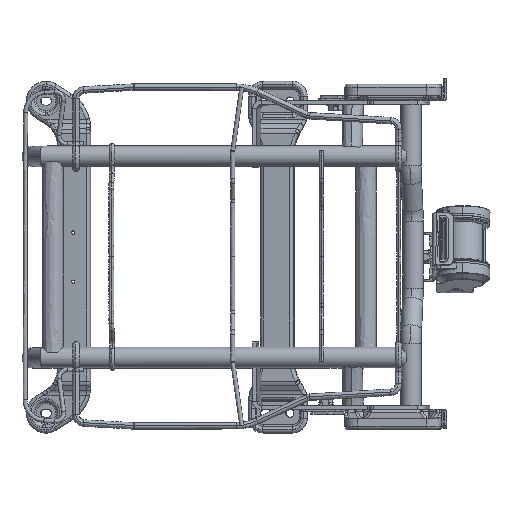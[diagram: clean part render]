
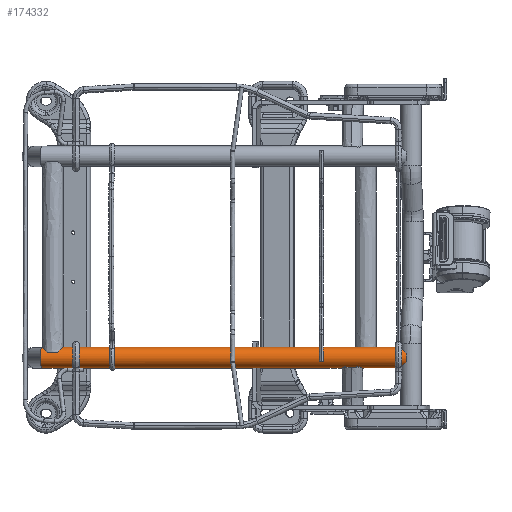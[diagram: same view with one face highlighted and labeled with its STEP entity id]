
A CAD part, top view. The second image highlights one B-rep face of the part: STEP entity #174332.
In plain terms, the highlighted cylindrical face has radius 12.5 mm (diameter 25 mm), a partial arc.
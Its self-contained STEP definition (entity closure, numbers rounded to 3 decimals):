
#174130=AXIS2_PLACEMENT_3D('Circle Axis2P3D',#174128,#174129,$) ;
#174226=AXIS2_PLACEMENT_3D('Circle Axis2P3D',#174224,#174225,$) ;
#174286=AXIS2_PLACEMENT_3D('Cylinder Axis2P3D',#174283,#174284,#174285) ;
#174042=CARTESIAN_POINT('Control Point',(-72.024,595.009,502.14)) ;
#174043=CARTESIAN_POINT('Control Point',(-72.023,595.007,502.064)) ;
#174044=CARTESIAN_POINT('Control Point',(-72.021,595.005,501.987)) ;
#174045=CARTESIAN_POINT('Control Point',(-72.018,595.004,501.911)) ;
#174046=CARTESIAN_POINT('Control Point',(-72.015,595.003,501.834)) ;
#174047=CARTESIAN_POINT('Control Point',(-72.012,595.003,501.758)) ;
#174048=CARTESIAN_POINT('Vertex',(-72.024,595.009,502.14)) ;
#174050=CARTESIAN_POINT('Vertex',(-72.012,595.003,501.758)) ;
#174125=CARTESIAN_POINT('Vertex',(-509.468,595.005,481.391)) ;
#174128=CARTESIAN_POINT('Axis2P3D Location',(-509.468,607.505,481.391)) ;
#174132=CARTESIAN_POINT('Vertex',(-509.467,620.005,481.391)) ;
#174214=CARTESIAN_POINT('Vertex',(-65.473,602.074,513.334)) ;
#174221=CARTESIAN_POINT('Vertex',(-65.473,612.933,513.334)) ;
#174224=CARTESIAN_POINT('Axis2P3D Location',(-64.949,607.503,502.087)) ;
#174263=CARTESIAN_POINT('Control Point',(-65.473,602.074,513.334)) ;
#174264=CARTESIAN_POINT('Control Point',(-66.292,601.235,512.891)) ;
#174265=CARTESIAN_POINT('Control Point',(-67.086,600.417,512.363)) ;
#174266=CARTESIAN_POINT('Control Point',(-67.85,599.625,511.744)) ;
#174267=CARTESIAN_POINT('Control Point',(-69.11,598.308,510.495)) ;
#174268=CARTESIAN_POINT('Control Point',(-70.182,597.166,508.949)) ;
#174269=CARTESIAN_POINT('Control Point',(-70.6,596.715,508.229)) ;
#174270=CARTESIAN_POINT('Control Point',(-71.33,595.914,506.679)) ;
#174271=CARTESIAN_POINT('Control Point',(-71.804,595.358,504.932)) ;
#174272=CARTESIAN_POINT('Control Point',(-71.966,595.155,504.018)) ;
#174273=CARTESIAN_POINT('Control Point',(-72.039,595.038,503.079)) ;
#174274=CARTESIAN_POINT('Control Point',(-72.024,595.009,502.14)) ;
#174283=CARTESIAN_POINT('Axis2P3D Location',(-287.208,607.504,491.739)) ;
#174288=CARTESIAN_POINT('Line Origine',(-287.208,620.004,491.739)) ;
#174292=CARTESIAN_POINT('Vertex',(-72.012,620.003,501.758)) ;
#174295=CARTESIAN_POINT('Line Origine',(-287.208,595.004,491.739)) ;
#174301=CARTESIAN_POINT('Control Point',(-65.473,612.933,513.334)) ;
#174302=CARTESIAN_POINT('Control Point',(-66.285,613.765,512.895)) ;
#174303=CARTESIAN_POINT('Control Point',(-67.073,614.576,512.371)) ;
#174304=CARTESIAN_POINT('Control Point',(-67.832,615.363,511.758)) ;
#174305=CARTESIAN_POINT('Control Point',(-69.046,616.631,510.561)) ;
#174306=CARTESIAN_POINT('Control Point',(-70.088,617.741,509.086)) ;
#174307=CARTESIAN_POINT('Control Point',(-70.484,618.167,508.428)) ;
#174308=CARTESIAN_POINT('Control Point',(-71.246,618.999,506.899)) ;
#174309=CARTESIAN_POINT('Control Point',(-71.76,619.594,505.167)) ;
#174310=CARTESIAN_POINT('Control Point',(-71.952,619.832,504.176)) ;
#174311=CARTESIAN_POINT('Control Point',(-72.04,619.967,503.159)) ;
#174312=CARTESIAN_POINT('Control Point',(-72.024,619.998,502.14)) ;
#174313=CARTESIAN_POINT('Vertex',(-72.024,619.998,502.14)) ;
#174317=CARTESIAN_POINT('Control Point',(-72.024,619.998,502.14)) ;
#174318=CARTESIAN_POINT('Control Point',(-72.022,620.002,502.013)) ;
#174319=CARTESIAN_POINT('Control Point',(-72.018,620.003,501.885)) ;
#174320=CARTESIAN_POINT('Control Point',(-72.012,620.003,501.758)) ;
#174129=DIRECTION('Axis2P3D Direction',(0.999,0.,0.047)) ;
#174225=DIRECTION('Axis2P3D Direction',(0.999,0.,0.047)) ;
#174284=DIRECTION('Axis2P3D Direction',(0.999,0.,0.047)) ;
#174285=DIRECTION('Axis2P3D XDirection',(0.,1.,0.)) ;
#174289=DIRECTION('Vector Direction',(0.999,0.,0.047)) ;
#174296=DIRECTION('Vector Direction',(0.999,0.,0.047)) ;
#174290=VECTOR('Line Direction',#174289,1.) ;
#174297=VECTOR('Line Direction',#174296,1.) ;
#174323=ORIENTED_EDGE('',*,*,#174294,.F.) ;
#174324=ORIENTED_EDGE('',*,*,#174134,.T.) ;
#174325=ORIENTED_EDGE('',*,*,#174299,.T.) ;
#174326=ORIENTED_EDGE('',*,*,#174052,.F.) ;
#174327=ORIENTED_EDGE('',*,*,#174275,.T.) ;
#174328=ORIENTED_EDGE('',*,*,#174228,.T.) ;
#174329=ORIENTED_EDGE('',*,*,#174315,.T.) ;
#174330=ORIENTED_EDGE('',*,*,#174321,.T.) ;
#174332=ADVANCED_FACE('SHT0014466.2\\SHT0014466.2\\\X2\4E0A7EB57BA1\X0\.2\\\X2\51E04F554F53\X0\.2',(#174331),#174287,.T.) ;
#174041=B_SPLINE_CURVE_WITH_KNOTS('',5,(#174042,#174043,#174044,#174045,#174046,#174047),.UNSPECIFIED.,.F.,.U.,(6,6),(0.,0.352),.UNSPECIFIED.) ;
#174262=B_SPLINE_CURVE_WITH_KNOTS('',5,(#174263,#174264,#174265,#174266,#174267,#174268,#174269,#174270,#174271,#174272,#174273,#174274),.UNSPECIFIED.,.F.,.U.,(6,3,3,6),(0.,5.918,10.354,14.792),.UNSPECIFIED.) ;
#174300=B_SPLINE_CURVE_WITH_KNOTS('',5,(#174301,#174302,#174303,#174304,#174305,#174306,#174307,#174308,#174309,#174310,#174311,#174312),.UNSPECIFIED.,.F.,.U.,(6,3,3,6),(0.,8.807,14.983,22.206),.UNSPECIFIED.) ;
#174316=B_SPLINE_CURVE_WITH_KNOTS('',3,(#174317,#174318,#174319,#174320),.UNSPECIFIED.,.F.,.U.,(4,4),(0.,0.54),.UNSPECIFIED.) ;
#174131=CIRCLE('generated circle',#174130,12.5) ;
#174227=CIRCLE('generated circle',#174226,12.5) ;
#174287=CYLINDRICAL_SURFACE('generated cylinder',#174286,12.5) ;
#174052=EDGE_CURVE('',#174049,#174051,#174041,.T.) ;
#174134=EDGE_CURVE('',#174133,#174126,#174131,.T.) ;
#174228=EDGE_CURVE('',#174215,#174222,#174227,.F.) ;
#174275=EDGE_CURVE('',#174049,#174215,#174262,.F.) ;
#174294=EDGE_CURVE('',#174133,#174293,#174291,.T.) ;
#174299=EDGE_CURVE('',#174126,#174051,#174298,.T.) ;
#174315=EDGE_CURVE('',#174222,#174314,#174300,.T.) ;
#174321=EDGE_CURVE('',#174314,#174293,#174316,.T.) ;
#174322=EDGE_LOOP('',(#174323,#174324,#174325,#174326,#174327,#174328,#174329,#174330)) ;
#174331=FACE_OUTER_BOUND('',#174322,.T.) ;
#174291=LINE('Line',#174288,#174290) ;
#174298=LINE('Line',#174295,#174297) ;
#174049=VERTEX_POINT('',#174048) ;
#174051=VERTEX_POINT('',#174050) ;
#174126=VERTEX_POINT('',#174125) ;
#174133=VERTEX_POINT('',#174132) ;
#174215=VERTEX_POINT('',#174214) ;
#174222=VERTEX_POINT('',#174221) ;
#174293=VERTEX_POINT('',#174292) ;
#174314=VERTEX_POINT('',#174313) ;
